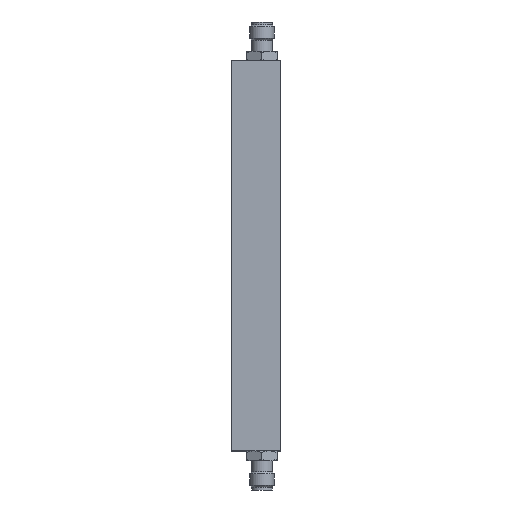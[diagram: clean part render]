
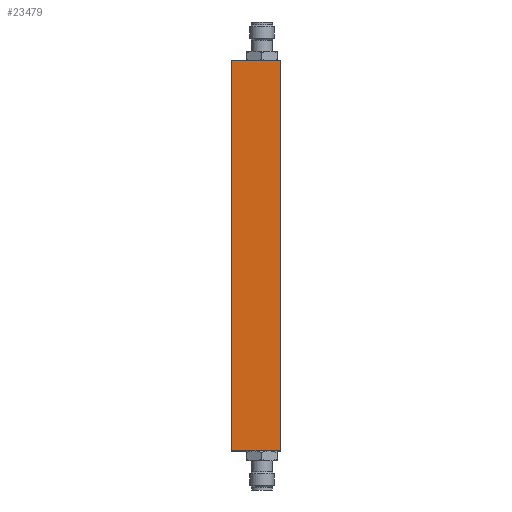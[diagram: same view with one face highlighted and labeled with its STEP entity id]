
A CAD part, left-side view. The second image highlights one B-rep face of the part: STEP entity #23479.
In plain terms, the highlighted planar face has unit normal (-1, 0, 0).
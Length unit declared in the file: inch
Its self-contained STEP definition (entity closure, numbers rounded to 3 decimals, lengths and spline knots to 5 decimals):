
#2610 = EDGE_LOOP ( 'NONE', ( #22324, #22300, #20359, #13510 ) ) ;
#4144 = PLANE ( 'NONE',  #15755 ) ;
#4321 = LINE ( 'NONE', #26469, #7569 ) ;
#5336 = CARTESIAN_POINT ( 'NONE',  ( -4.25, 0.3, -2. ) ) ;
#6313 = VERTEX_POINT ( 'NONE', #27997 ) ;
#6964 = CARTESIAN_POINT ( 'NONE',  ( -4.25, 0.3, -2. ) ) ;
#7569 = VECTOR ( 'NONE', #12575, 39.37008 ) ;
#7734 = FACE_OUTER_BOUND ( 'NONE', #2610, .T. ) ;
#8390 = EDGE_CURVE ( 'NONE', #26593, #12453, #4321, .T. ) ;
#9829 = DIRECTION ( 'NONE',  ( 0., -1., 0. ) ) ;
#11133 = DIRECTION ( 'NONE',  ( 0., 0., -1. ) ) ;
#11138 = VECTOR ( 'NONE', #22106, 39.37008 ) ;
#11434 = DIRECTION ( 'NONE',  ( 1., 0., 0. ) ) ;
#12453 = VERTEX_POINT ( 'NONE', #21353 ) ;
#12575 = DIRECTION ( 'NONE',  ( 0., -1., 0. ) ) ;
#13510 = ORIENTED_EDGE ( 'NONE', *, *, #13704, .T. ) ;
#13704 = EDGE_CURVE ( 'NONE', #26910, #6313, #13952, .T. ) ;
#13952 = LINE ( 'NONE', #23744, #27751 ) ;
#15089 = CARTESIAN_POINT ( 'NONE',  ( -4.25, 0.3, 2. ) ) ;
#15755 = AXIS2_PLACEMENT_3D ( 'NONE', #15901, #11434, #11133 ) ;
#15901 = CARTESIAN_POINT ( 'NONE',  ( -4.25, 0.2, 2. ) ) ;
#17282 = LINE ( 'NONE', #22522, #11138 ) ;
#18248 = EDGE_CURVE ( 'NONE', #26910, #26593, #19797, .T. ) ;
#19797 = LINE ( 'NONE', #5336, #26748 ) ;
#20359 = ORIENTED_EDGE ( 'NONE', *, *, #18248, .F. ) ;
#21241 = EDGE_CURVE ( 'NONE', #6313, #12453, #17282, .T. ) ;
#21353 = CARTESIAN_POINT ( 'NONE',  ( -4.25, -0.2, 2. ) ) ;
#22106 = DIRECTION ( 'NONE',  ( 0., 0., 1. ) ) ;
#22300 = ORIENTED_EDGE ( 'NONE', *, *, #8390, .F. ) ;
#22324 = ORIENTED_EDGE ( 'NONE', *, *, #21241, .T. ) ;
#22522 = CARTESIAN_POINT ( 'NONE',  ( -4.25, -0.2, 2. ) ) ;
#23479 = ADVANCED_FACE ( 'NONE', ( #7734 ), #4144, .F. ) ;
#23744 = CARTESIAN_POINT ( 'NONE',  ( -4.25, 0.2, -2. ) ) ;
#26469 = CARTESIAN_POINT ( 'NONE',  ( -4.25, 0.2, 2. ) ) ;
#26528 = DIRECTION ( 'NONE',  ( 0., 0., 1. ) ) ;
#26593 = VERTEX_POINT ( 'NONE', #15089 ) ;
#26748 = VECTOR ( 'NONE', #26528, 39.37008 ) ;
#26910 = VERTEX_POINT ( 'NONE', #6964 ) ;
#27751 = VECTOR ( 'NONE', #9829, 39.37008 ) ;
#27997 = CARTESIAN_POINT ( 'NONE',  ( -4.25, -0.2, -2. ) ) ;
